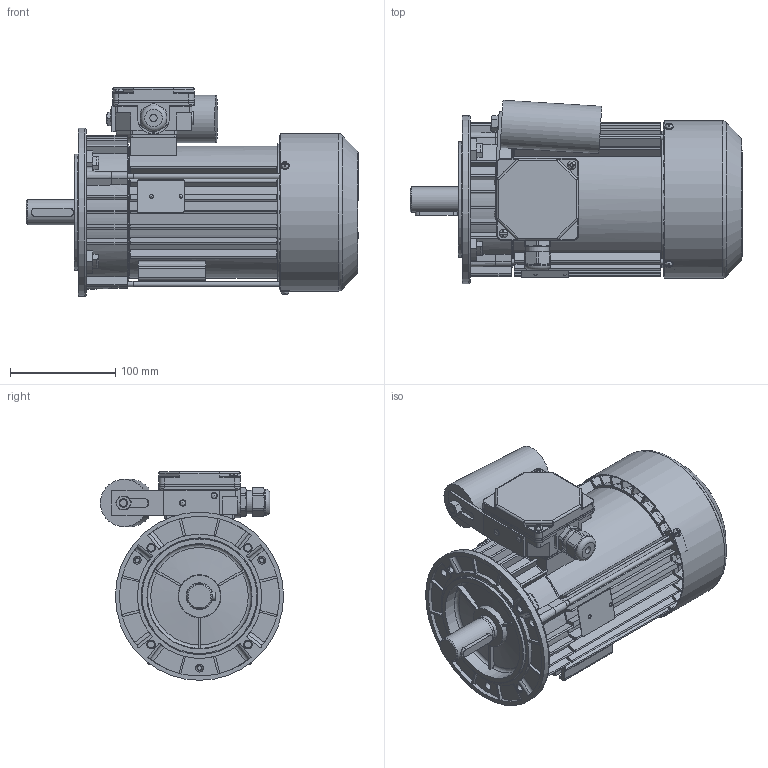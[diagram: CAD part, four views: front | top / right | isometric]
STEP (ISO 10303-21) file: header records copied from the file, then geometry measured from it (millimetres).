
FILE_DESCRIPTION( ( 'Unknown' ), '1' );
FILE_NAME( 'G:/Poczta Tk-1/STP/w.m.90/SEh90/SEKh90-.S1.stp', 'Unknown', ( 'K. Szlosek' ), ( 'BESEL S.A.' ), 'PSStep 17.0.49', 'Unknown', ' ' );
FILE_SCHEMA( ( 'AUTOMOTIVE_DESIGN { 1 0 10303 214 1 1 1 1 }' ) );
Length unit declared in the file: millimetre
Products named in the file (46): skrznka zaciskowa jednofazowa ; K4-2820 Uszczelka nr 2 Sh71,80; K2-1131 Podstawa skrzynki zaciskowej jednofazowa; K4-2999 Uchwyt kondensatora; Nit 4x12 po skróceniu; nakrętka M8; K4-0898 Tulejka uszczelniająca; Dławnica M20x1,5; K2-0860 Pokrywka skrzynki zaciskowej; Assem1; K1-1257 Kadłub S(E,M)h80-C i D; K2-1715 Przewietrznik; Wpust A8x7x40; K3-7808 Wał Sh90-.S; Wkręt samogwintujący M4x12; Tabliczka znamionowa 32x44; Kondensator zb 25-31,5uF Comar; K4-4489 Osłona przewietrznika Sh80,90-A,C; K4-2320 Uszczelka nr 1 Sh71,80; K2-2027 Tarcza łożyskowa P S(E,M)h80-.A,C; Wkręt samogwintujący M4x8; Łożysko 6205; Łożysko 6204; Śruba ściągająca E_M5x168; Nitokołek A 2x6; K3-7774 Tarcza Kołnierzowa 90 B14_1 Sh  
Assembly tree (52 placements, depth 3):
  Assem1
    K1-1257 Kadłub S(E,M)h80-C i D
    K2-1715 Przewietrznik
    Wpust A8x7x40
    K3-7808 Wał Sh90-.S
    Wkręt samogwintujący M4x12  x2
    Tabliczka znamionowa 32x44
    Kondensator zb 25-31,5uF Comar
    K4-4489 Osłona przewietrznika Sh80,90-A,C
    K4-2320 Uszczelka nr 1 Sh71,80
    K2-2027 Tarcza łożyskowa P S(E,M)h80-.A,C
    Wkręt samogwintujący M4x8  x3
    Łożysko 6205
    Łożysko 6205
    Łożysko 6205
    Łożysko 6205
    Łożysko 6205
    Łożysko 6205
    Łożysko 6205
    Łożysko 6205
    Łożysko 6205
    Łożysko 6205
    Łożysko 6205
    Łożysko 6205
    Łożysko 6204
    Łożysko 6204
    Łożysko 6204
    Łożysko 6204
    Łożysko 6204
    Łożysko 6204
    Łożysko 6204
    Łożysko 6204
    Łożysko 6204
    Łożysko 6204
    Śruba ściągająca E_M5x168  x3
    Nitokołek A 2x6  x2
    K3-7774 Tarcza Kołnierzowa 90 B14_1 Sh  
    skrznka zaciskowa jednofazowa 
      K4-2820 Uszczelka nr 2 Sh71,80
      K2-1131 Podstawa skrzynki zaciskowej jednofazowa
      K4-2999 Uchwyt kondensatora
      Nit 4x12 po skróceniu  x2
      nakrętka M8
      K4-0898 Tulejka uszczelniająca
      Dławnica M20x1,5
      K2-0860 Pokrywka skrzynki zaciskowej
Bounding box: 315.8 x 174.3 x 198.5 mm (x, y, z)
Volume: 1147831 mm3; surface area: 622476.4 mm2
Topology: 51 solids, 69 shells, 2587 faces, 7101 edges, 4594 vertices
Faces by surface type: plane 1303, cylinder 832, cone 149, bspline 137, torus 126, sphere 40
Full cylindrical faces by diameter (mm): 2 x2, 2.4 x2, 3 x2, 3.7 x11, 4 x7, 4.134 x3, 4.3 x2, 4.5 x3, 4.6 x3, 4.8 x4, 5 x7, 5.5 x3, 6 x2, 6.5 x1, 6.647 x5, 7 x1, 8 x10, 10 x2, 18.376 x1, 18.38 x1, 19.3 x1, 19.5 x2, 19.6 x1, 19.9 x1, 20 x3, 20.4 x1, 22.3 x1, 23.6 x1, 24 x1, 24.6 x1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
Entity records: 119764 total; most frequent: CARTESIAN_POINT 40258, ORIENTED_EDGE 12630, DIRECTION 12396, EDGE_CURVE 6315, AXIS2_PLACEMENT_3D 4545, VERTEX_POINT 4307, LINE 3306, VECTOR 3306
